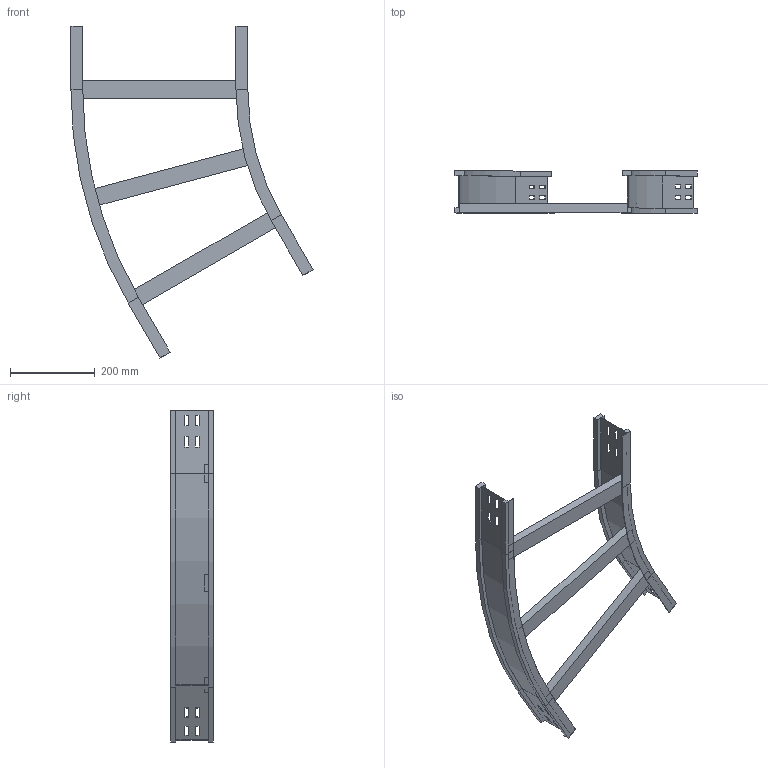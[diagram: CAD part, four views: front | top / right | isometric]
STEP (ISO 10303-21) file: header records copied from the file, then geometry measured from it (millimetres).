
FILE_DESCRIPTION (( 'STEP AP214' ), '1' );
FILE_NAME ('12S6D400.step', '2025-02-21T16:01:25', ( '' ), ( '' ), 'SwSTEP 2.0', 'SolidWorks 2023', '' );
FILE_SCHEMA (( 'AUTOMOTIVE_DESIGN' ));
Length unit declared in the file: millimetre
Products named in the file (4): LONGH.INTERNO30°_H100_R600; 12S6D400; LONGH.ESTERNO 30°_H100_R600+400; TRAVERSINO_400
Assembly tree (5 placements, depth 2):
  12S6D400
    LONGH.INTERNO30°_H100_R600
    LONGH.ESTERNO 30°_H100_R600+400
    TRAVERSINO_400  x3
Bounding box: 572.18 x 100 x 784.4 mm (x, y, z)
Volume: 1721681.2 mm3; surface area: 572538.1 mm2
Topology: 5 solids, 5 shells, 158 faces, 396 edges, 248 vertices
Faces by surface type: plane 146, cylinder 12
Entity records: 4477 total; most frequent: CARTESIAN_POINT 758, ORIENTED_EDGE 744, DIRECTION 704, EDGE_CURVE 372, LINE 348, VECTOR 348, VERTEX_POINT 232, EDGE_LOOP 178
